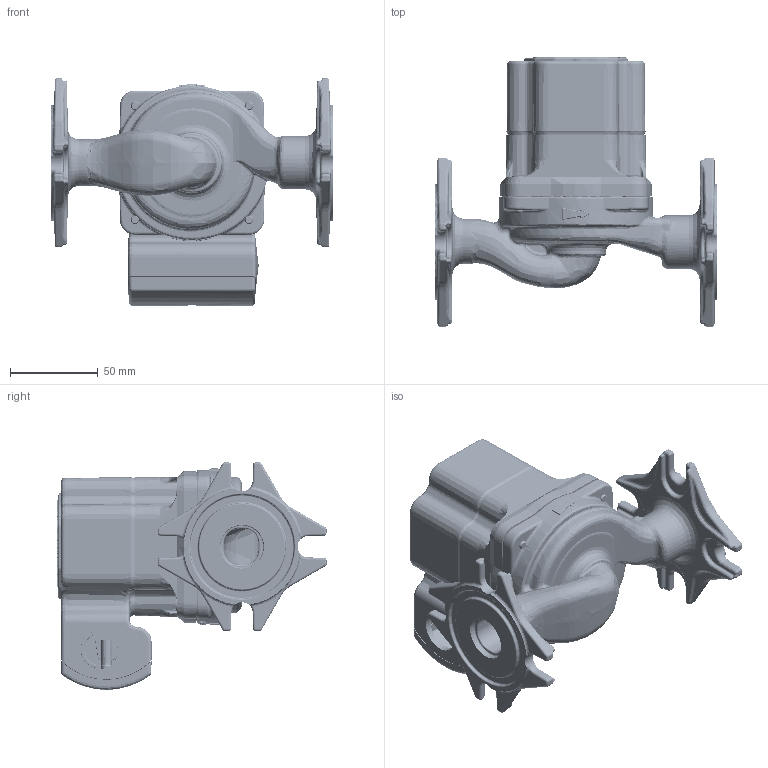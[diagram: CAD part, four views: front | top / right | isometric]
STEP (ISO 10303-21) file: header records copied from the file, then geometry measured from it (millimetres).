
FILE_DESCRIPTION (( 'STEP AP203' ), '1' );
FILE_NAME ('VM1816-DY2-4S2A00.STEP', '2021-05-11T21:59:32', ( '' ), ( '' ), 'SwSTEP 2.0', 'SolidWorks 2019', '' );
FILE_SCHEMA (( 'CONFIG_CONTROL_DESIGN' ));
Products named in the file (1): VM1816-DY2-4S2A00
Bounding box: 160.78 x 153.69 x 129.96 mm (x, y, z)
Surface area: 293157.7 mm2 (no closed solid volume)
Topology: 0 solids, 163 shells, 15916 faces, 40382 edges, 24079 vertices
Faces by surface type: bspline 5589, plane 4924, cylinder 4599, cone 534, torus 161, sphere 109
Entity records: 694089 total; most frequent: CARTESIAN_POINT 363151, ORIENTED_EDGE 79061, DIRECTION 54234, EDGE_CURVE 39558, VERTEX_POINT 24061, AXIS2_PLACEMENT_3D 18541, VECTOR 17152, LINE 17152
